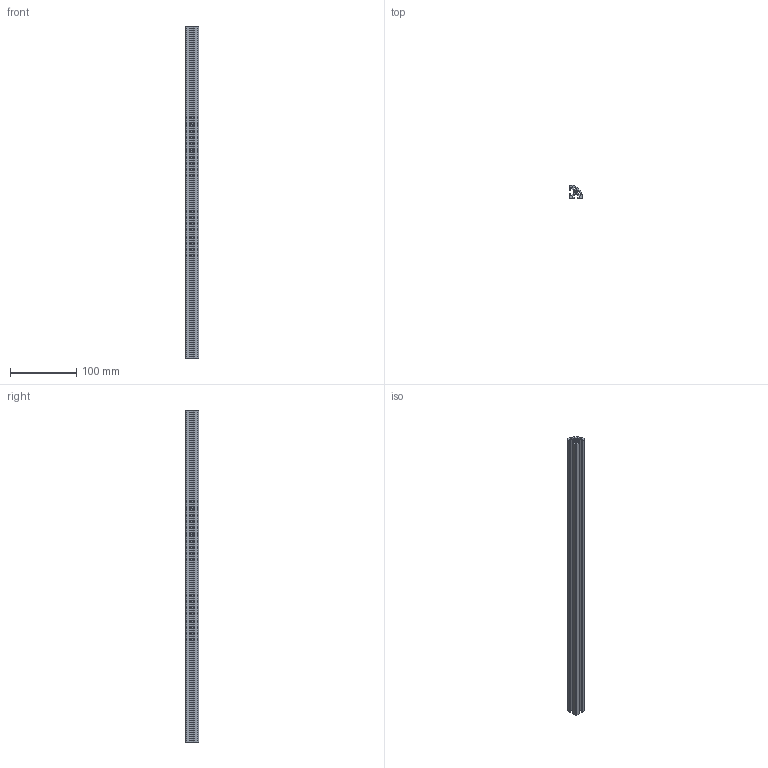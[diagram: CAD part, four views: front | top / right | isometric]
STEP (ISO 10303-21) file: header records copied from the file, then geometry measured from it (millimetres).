
FILE_DESCRIPTION (( 'STEP AP203' ), '1' );
FILE_NAME ('PP4110-500-Rollco.step', '2026-05-05T08:46:43', ( '' ), ( '' ), 'SwSTEP 2.0', 'SolidWorks 2014', '' );
FILE_SCHEMA (( 'CONFIG_CONTROL_DESIGN' ));
Length unit declared in the file: millimetre
Products named in the file (1): PP4110-500-Rollco
Bounding box: 19.89 x 19.89 x 500 mm (x, y, z)
Volume: 86315.1 mm3; surface area: 77446.3 mm2
Topology: 1 solids, 1 shells, 58 faces, 168 edges, 112 vertices
Faces by surface type: cylinder 34, plane 24
Entity records: 2029 total; most frequent: DIRECTION 354, CARTESIAN_POINT 339, ORIENTED_EDGE 336, EDGE_CURVE 168, AXIS2_PLACEMENT_3D 127, VERTEX_POINT 112, LINE 100, VECTOR 100
